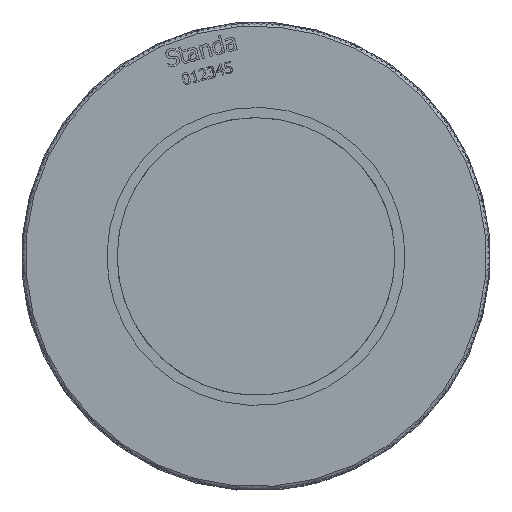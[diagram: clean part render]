
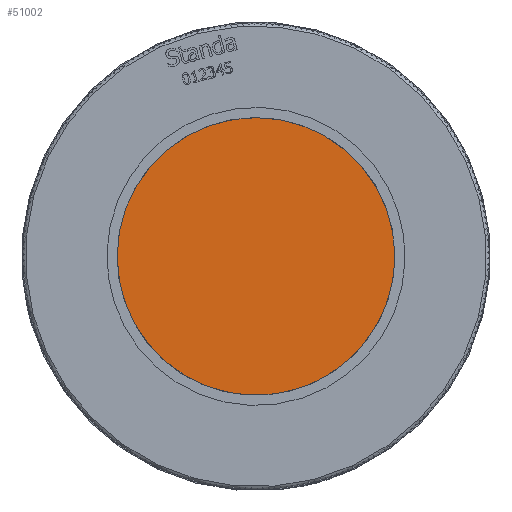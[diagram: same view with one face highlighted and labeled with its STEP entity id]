
A CAD part, front view. The second image highlights one B-rep face of the part: STEP entity #51002.
In plain terms, the highlighted planar face has unit normal (0, 1, 0).
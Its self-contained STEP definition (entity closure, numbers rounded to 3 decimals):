
#13129=PLANE($,#53883);
#13328=FACE_BOUND($,#18848,.T.);
#15994=FACE_OUTER_BOUND($,#18847,.T.);
#18847=EDGE_LOOP($,(#47174));
#18848=EDGE_LOOP($,(#47175));
#19299=CIRCLE($,#52455,38.95);
#19810=CIRCLE($,#53884,39.);
#22953=VERTEX_POINT($,#92722);
#24939=VERTEX_POINT($,#101957);
#29644=EDGE_CURVE($,#22953,#22953,#19299,.T.);
#32613=EDGE_CURVE($,#24939,#24939,#19810,.T.);
#47174=ORIENTED_EDGE($,*,*,#32613,.T.);
#47175=ORIENTED_EDGE($,*,*,#29644,.F.);
#51002=ADVANCED_FACE($,(#15994,#13328),#13129,.T.);
#52455=AXIS2_PLACEMENT_3D($,#92723,#59021,#59022);
#53883=AXIS2_PLACEMENT_3D($,#101956,#63540,#63541);
#53884=AXIS2_PLACEMENT_3D($,#101958,#63542,#63543);
#59021=DIRECTION('center_axis',(0.,1.,0.));
#59022=DIRECTION('ref_axis',(0.309,0.,-0.951));
#63540=DIRECTION('center_axis',(0.,1.,0.));
#63541=DIRECTION('ref_axis',(-0.641,0.,0.768));
#63542=DIRECTION('center_axis',(0.,1.,0.));
#63543=DIRECTION('ref_axis',(0.768,0.,0.641));
#92722=CARTESIAN_POINT('',(27.622,-1.259,12.423));
#92723=CARTESIAN_POINT('Origin',(-9.42,-1.259,0.383));
#101956=CARTESIAN_POINT('Origin',(-9.42,-1.259,0.383));
#101957=CARTESIAN_POINT('',(-39.363,-1.259,-24.606));
#101958=CARTESIAN_POINT('Origin',(-9.42,-1.259,0.383));
